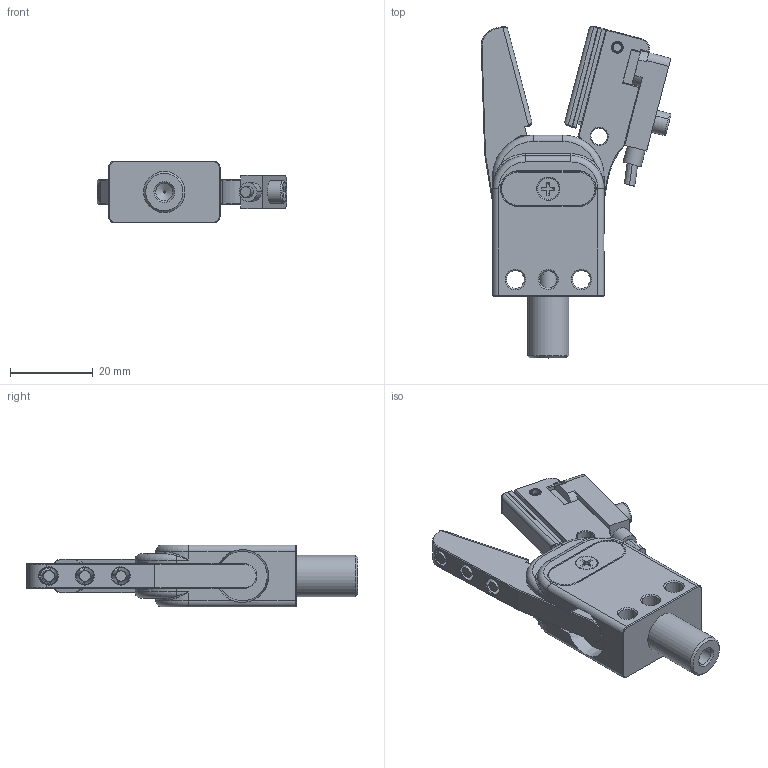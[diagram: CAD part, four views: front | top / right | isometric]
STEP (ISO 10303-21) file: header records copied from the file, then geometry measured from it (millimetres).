
FILE_DESCRIPTION(/* description */ (''),/* implementation_level */ '2;1');
FILE_NAME(/* name */ 'GR10N-12-CP',/* time_stamp */ '2023-02-14T15:59:55+08:00',/* author */ (''),/* organization */ (''),/* preprocessor_version */ 'ST-DEVELOPER v9',/* originating_system */ 'UGS - NX 4.0',/* authorisation */ '');
FILE_SCHEMA (('AUTOMOTIVE_DESIGN { 1 0 10303 214 1 1 1 1 }'));
Length unit declared in the file: millimetre
Products named in the file (1): Admi6E1727ug
Bounding box: 46 x 80.45 x 15 mm (x, y, z)
Volume: 18266.3 mm3; surface area: 11054.9 mm2
Topology: 4 solids, 10 shells, 563 faces, 1320 edges, 797 vertices
Faces by surface type: plane 265, cylinder 134, cone 112, torus 26, bspline 18, extrusion 8
Full cylindrical faces by diameter (mm): 0.5 x1, 2.2 x2, 2.5 x1, 3 x5, 3.5 x1, 4 x1, 4.2 x2, 4.3 x2, 5.2 x1, 6.2 x2, 10 x1
Entity records: 19743 total; most frequent: CARTESIAN_POINT 6973, DIRECTION 2706, ORIENTED_EDGE 2536, EDGE_CURVE 1268, AXIS2_PLACEMENT_3D 981, VERTEX_POINT 786, VECTOR 744, LINE 736
